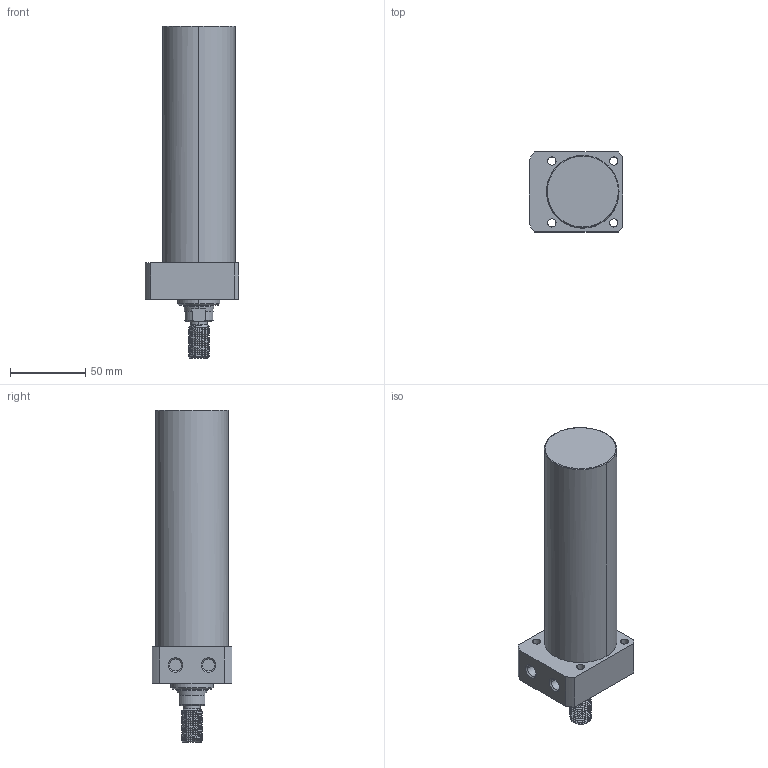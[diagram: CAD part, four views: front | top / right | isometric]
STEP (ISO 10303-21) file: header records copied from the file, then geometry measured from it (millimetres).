
FILE_DESCRIPTION((' '),'2;1');
FILE_NAME( 'TLLR-048CT-130.STEP.stp', '2025-10-24T16:34:38', (' '), ('--- Datakit www.datakit.com---'), ' Datakit CrossCadWare V2024.1 Dec 21 2023', 'Mastercam 2025', ' ');
FILE_SCHEMA(('AUTOMOTIVE_DESIGN { 1 0 10303 214 1 1 1 1 }'));
Length unit declared in the file: millimetre
Products named in the file (1): TLLR-048CT-130
Bounding box: 62 x 53 x 220 mm (x, y, z)
Volume: 367123.9 mm3; surface area: 40271.9 mm2
Topology: 1 solids, 1 shells, 96 faces, 331 edges, 245 vertices
Faces by surface type: cylinder 56, plane 20, cone 16, bspline 2, torus 2
Entity records: 10160 total; most frequent: CARTESIAN_POINT 7248, ORIENTED_EDGE 662, DIRECTION 503, EDGE_CURVE 331, VERTEX_POINT 245, AXIS2_PLACEMENT_3D 206, B_SPLINE_CURVE_WITH_KNOTS 129, EDGE_LOOP 112
